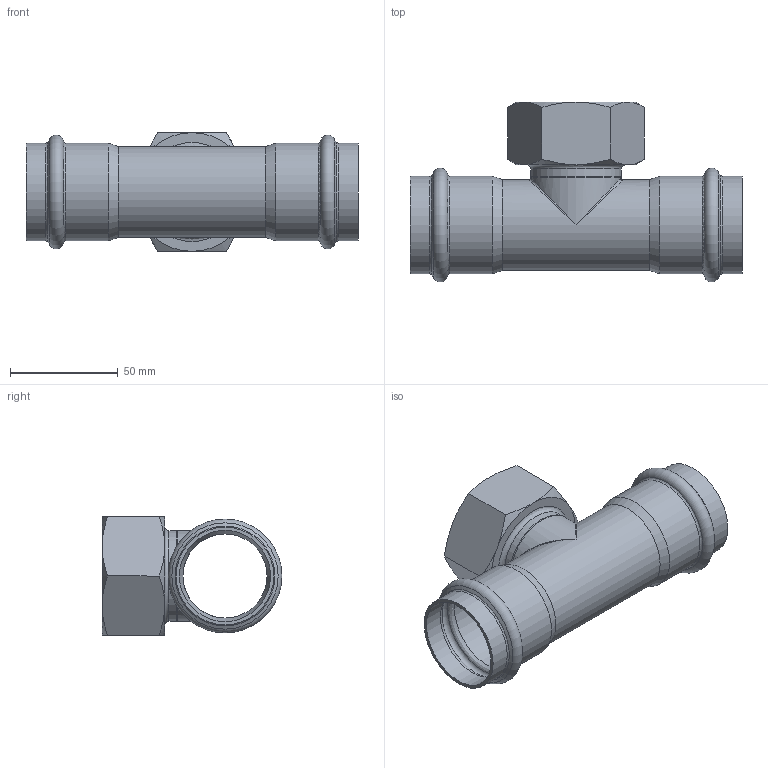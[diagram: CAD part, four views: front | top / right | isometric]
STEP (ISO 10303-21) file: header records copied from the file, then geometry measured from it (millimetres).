
FILE_DESCRIPTION((''),'2;1');
FILE_NAME('G:\Technics\CAD\Bauteile\042\69130G4211242(2).stp','2008-05-05T10:43:20',('herberg'),(''),'Autodesk Inventor 2008','Autodesk Inventor 2008','');
FILE_SCHEMA(('AUTOMOTIVE_DESIGN { 1 0 10303 214 1 1 1 1 }'));
Length unit declared in the file: millimetre
Products named in the file (3): 69130G4211242(2); LM_6913042(2); IG42112(1)
Assembly tree (2 placements, depth 2):
  69130G4211242(2)
    LM_6913042(2)
    IG42112(1)
Bounding box: 154 x 83.39 x 55 mm (x, y, z)
Volume: 64572 mm3; surface area: 56777.7 mm2
Topology: 2 solids, 2 shells, 66 faces, 147 edges, 79 vertices
Faces by surface type: cone 21, bspline 16, cylinder 13, plane 12, torus 4
Full cylindrical faces by diameter (mm): 39 x2, 42 x3, 42.3 x4, 45.3 x4
Entity records: 2538 total; most frequent: CARTESIAN_POINT 1342, DIRECTION 240, ORIENTED_EDGE 184, AXIS2_PLACEMENT_3D 117, EDGE_LOOP 112, EDGE_CURVE 92, VERTEX_POINT 70, FACE_OUTER_BOUND 66
